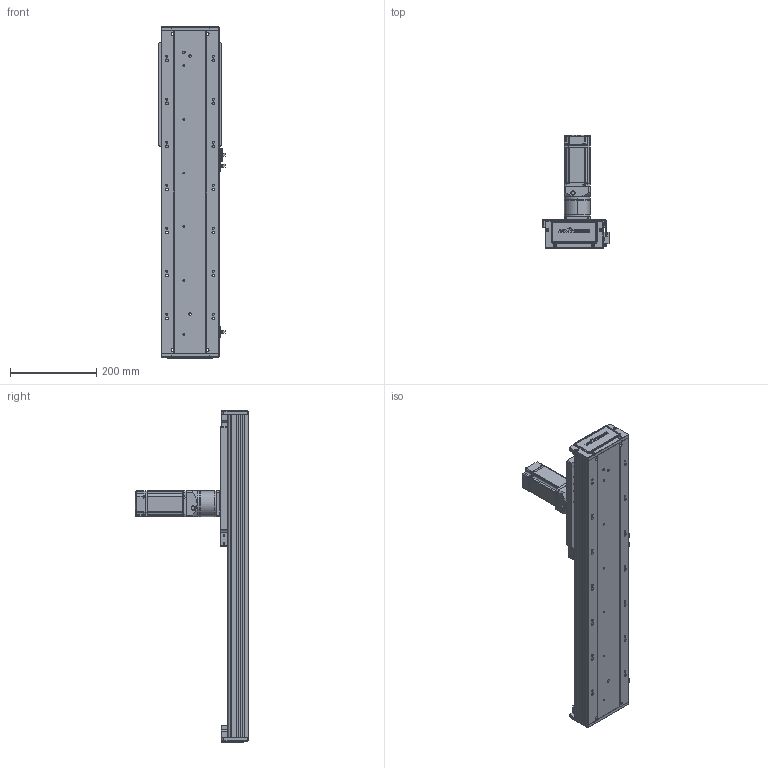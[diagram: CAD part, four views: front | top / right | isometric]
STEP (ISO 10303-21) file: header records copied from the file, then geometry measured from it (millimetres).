
FILE_DESCRIPTION (( 'STEP AP203' ), '1' );
FILE_NAME ('RY140-C-250-UK.SLDASM_400.step', '2022-03-12T01:58:13', ( '' ), ( '' ), 'SwSTEP 2.0', 'SolidWorks 2016', '' );
FILE_SCHEMA (( 'CONFIG_CONTROL_DESIGN' ));
Length unit declared in the file: millimetre
Products named in the file (12): RY140-喘沭裔啣; RY120外置感应片(140共用）; RY140-絳寢EGH15-300-MK_400; 15; RY140-300齿条模组型材底座_400; 絳寢賑輸EGH15; 60ZDF珨撰俋倛芞T1 200W M4; 140蚥薯蝶輸; RY140-喘沭賑輸; RY140-C-250-UK.SLDASM_400; 覜茼ん672; RY140-喘謫萇儂覃誹啣
Assembly tree (21 placements, depth 2):
  RY140-C-250-UK.SLDASM_400
    RY140-300齿条模组型材底座_400
    RY140-絳寢EGH15-300-MK_400  x2
    絳寢賑輸EGH15  x6
    RY140-喘沭裔啣  x2
    覜茼ん672  x3
    RY140-喘沭賑輸
    RY120外置感应片(140共用）
    RY140-喘謫萇儂覃誹啣
    140蚥薯蝶輸  x2
    60ZDF珨撰俋倛芞T1 200W M4
    15
Bounding box: 153.7 x 263.5 x 772 mm (x, y, z)
Volume: 3593727.1 mm3; surface area: 881075.3 mm2
Topology: 21 solids, 21 shells, 3080 faces, 8084 edges, 5246 vertices
Faces by surface type: plane 1614, cylinder 1224, cone 196, bspline 46
Entity records: 65861 total; most frequent: CARTESIAN_POINT 13771, DIRECTION 10613, ORIENTED_EDGE 10446, EDGE_CURVE 5223, AXIS2_PLACEMENT_3D 3713, VERTEX_POINT 3415, VECTOR 3187, LINE 3187
